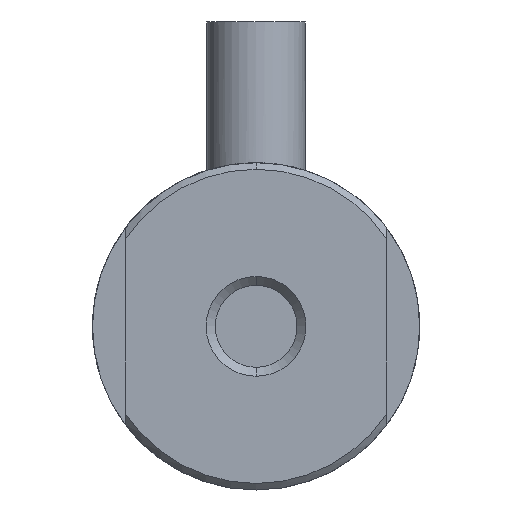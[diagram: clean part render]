
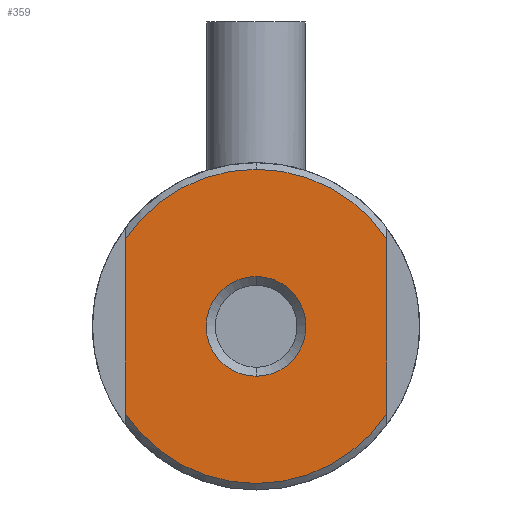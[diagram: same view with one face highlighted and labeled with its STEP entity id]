
A CAD part, front view. The second image highlights one B-rep face of the part: STEP entity #359.
In plain terms, the highlighted planar face has unit normal (0, -1, 0).
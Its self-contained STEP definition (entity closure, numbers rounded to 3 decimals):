
#15 = VERTEX_POINT ( 'NONE', #1354 ) ;
#21 = VERTEX_POINT ( 'NONE', #538 ) ;
#29 = CARTESIAN_POINT ( 'NONE',  ( 7.226, -12.067, 27.544 ) ) ;
#90 = CARTESIAN_POINT ( 'NONE',  ( 11.226, -12.067, 24.891 ) ) ;
#99 = DIRECTION ( 'NONE',  ( 0., 0., -1. ) ) ;
#119 = EDGE_CURVE ( 'NONE', #2101, #550, #1902, .T. ) ;
#189 = DIRECTION ( 'NONE',  ( 0., -1., 0. ) ) ;
#201 = DIRECTION ( 'NONE',  ( 0., -1., 0. ) ) ;
#261 = DIRECTION ( 'NONE',  ( 0., -1., 0. ) ) ;
#349 = CIRCLE ( 'NONE', #992, 1.525 ) ;
#359 = ADVANCED_FACE ( 'NONE', ( #389, #1980 ), #1455, .F. ) ;
#365 = EDGE_LOOP ( 'NONE', ( #1454, #907 ) ) ;
#389 = FACE_BOUND ( 'NONE', #365, .T. ) ;
#400 = DIRECTION ( 'NONE',  ( 0., 0., -1. ) ) ;
#438 = DIRECTION ( 'NONE',  ( 0., -1., 0. ) ) ;
#481 = CARTESIAN_POINT ( 'NONE',  ( 7.226, -12.067, 27.891 ) ) ;
#534 = AXIS2_PLACEMENT_3D ( 'NONE', #1508, #189, #1825 ) ;
#538 = CARTESIAN_POINT ( 'NONE',  ( 11.226, -12.067, 23.366 ) ) ;
#550 = VERTEX_POINT ( 'NONE', #29 ) ;
#553 = VERTEX_POINT ( 'NONE', #1667 ) ;
#706 = EDGE_CURVE ( 'NONE', #21, #15, #1963, .T. ) ;
#796 = CIRCLE ( 'NONE', #1533, 4.8 ) ;
#891 = CARTESIAN_POINT ( 'NONE',  ( 11.226, -12.067, 24.891 ) ) ;
#907 = ORIENTED_EDGE ( 'NONE', *, *, #1742, .F. ) ;
#963 = DIRECTION ( 'NONE',  ( 0., -1., 0. ) ) ;
#966 = CARTESIAN_POINT ( 'NONE',  ( 11.226, -12.067, 24.891 ) ) ;
#992 = AXIS2_PLACEMENT_3D ( 'NONE', #90, #261, #1878 ) ;
#1040 = CARTESIAN_POINT ( 'NONE',  ( 7.226, -12.067, 22.237 ) ) ;
#1047 = AXIS2_PLACEMENT_3D ( 'NONE', #966, #1127, #1632 ) ;
#1094 = VECTOR ( 'NONE', #400, 1000. ) ;
#1127 = DIRECTION ( 'NONE',  ( 0., 1., 0. ) ) ;
#1207 = LINE ( 'NONE', #1378, #1094 ) ;
#1267 = DIRECTION ( 'NONE',  ( 0., 0., 1. ) ) ;
#1291 = CARTESIAN_POINT ( 'NONE',  ( 11.226, -12.067, 24.891 ) ) ;
#1314 = AXIS2_PLACEMENT_3D ( 'NONE', #1291, #963, #1267 ) ;
#1354 = CARTESIAN_POINT ( 'NONE',  ( 11.226, -12.067, 26.416 ) ) ;
#1373 = EDGE_CURVE ( 'NONE', #2101, #553, #1515, .T. ) ;
#1378 = CARTESIAN_POINT ( 'NONE',  ( 15.226, -12.067, 27.891 ) ) ;
#1454 = ORIENTED_EDGE ( 'NONE', *, *, #706, .F. ) ;
#1455 = PLANE ( 'NONE',  #1047 ) ;
#1469 = EDGE_CURVE ( 'NONE', #1532, #553, #1207, .T. ) ;
#1483 = ORIENTED_EDGE ( 'NONE', *, *, #1373, .T. ) ;
#1508 = CARTESIAN_POINT ( 'NONE',  ( 11.226, -12.067, 24.891 ) ) ;
#1515 = CIRCLE ( 'NONE', #534, 4.8 ) ;
#1530 = CARTESIAN_POINT ( 'NONE',  ( 11.226, -12.067, 29.691 ) ) ;
#1532 = VERTEX_POINT ( 'NONE', #1848 ) ;
#1533 = AXIS2_PLACEMENT_3D ( 'NONE', #891, #201, #1846 ) ;
#1561 = CARTESIAN_POINT ( 'NONE',  ( 11.226, -12.067, 24.891 ) ) ;
#1601 = DIRECTION ( 'NONE',  ( 0., 0., 1. ) ) ;
#1612 = VECTOR ( 'NONE', #1601, 1000. ) ;
#1632 = DIRECTION ( 'NONE',  ( 0., 0., 1. ) ) ;
#1667 = CARTESIAN_POINT ( 'NONE',  ( 15.226, -12.067, 22.237 ) ) ;
#1671 = EDGE_LOOP ( 'NONE', ( #2053, #2026, #1881, #2130, #1483 ) ) ;
#1716 = EDGE_CURVE ( 'NONE', #2064, #550, #796, .T. ) ;
#1742 = EDGE_CURVE ( 'NONE', #15, #21, #349, .T. ) ;
#1772 = AXIS2_PLACEMENT_3D ( 'NONE', #1561, #438, #99 ) ;
#1789 = EDGE_CURVE ( 'NONE', #1532, #2064, #2047, .T. ) ;
#1825 = DIRECTION ( 'NONE',  ( 0., 0., 1. ) ) ;
#1846 = DIRECTION ( 'NONE',  ( 0., 0., 1. ) ) ;
#1848 = CARTESIAN_POINT ( 'NONE',  ( 15.226, -12.067, 27.544 ) ) ;
#1878 = DIRECTION ( 'NONE',  ( 0., 0., -1. ) ) ;
#1881 = ORIENTED_EDGE ( 'NONE', *, *, #1716, .T. ) ;
#1902 = LINE ( 'NONE', #481, #1612 ) ;
#1963 = CIRCLE ( 'NONE', #1772, 1.525 ) ;
#1980 = FACE_OUTER_BOUND ( 'NONE', #1671, .T. ) ;
#2026 = ORIENTED_EDGE ( 'NONE', *, *, #1789, .T. ) ;
#2047 = CIRCLE ( 'NONE', #1314, 4.8 ) ;
#2053 = ORIENTED_EDGE ( 'NONE', *, *, #1469, .F. ) ;
#2064 = VERTEX_POINT ( 'NONE', #1530 ) ;
#2101 = VERTEX_POINT ( 'NONE', #1040 ) ;
#2130 = ORIENTED_EDGE ( 'NONE', *, *, #119, .F. ) ;
